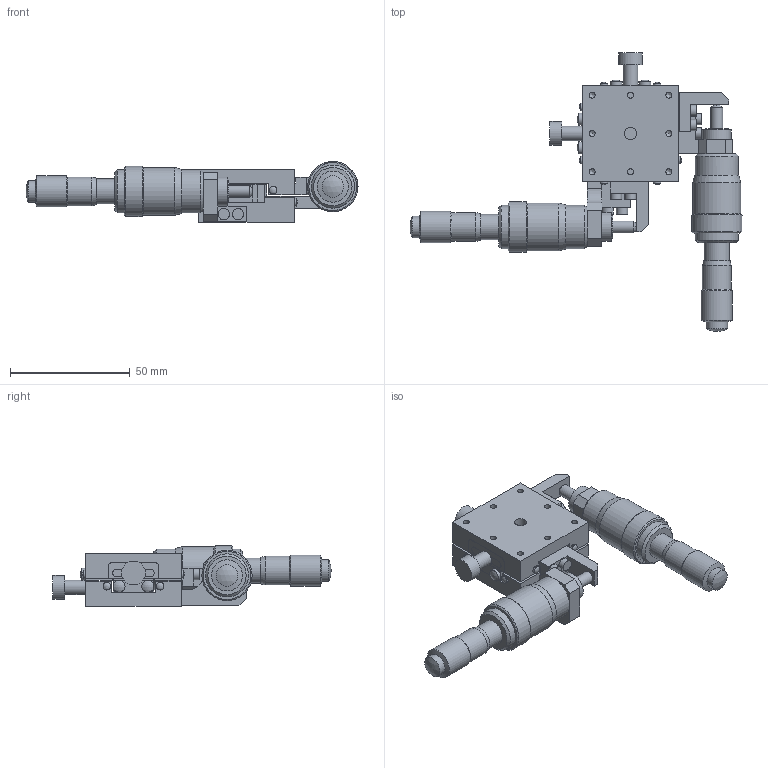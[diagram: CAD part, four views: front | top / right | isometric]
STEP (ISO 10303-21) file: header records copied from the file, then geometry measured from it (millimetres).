
FILE_DESCRIPTION( ( 'STEP AP214' ), '1' );
FILE_NAME( 'C:/Project/3D_B23-40DR-配布-070508.stp', '2007-05-08T10:43:01', ( ' ' ), ( ' ' ), 'XStep 1.0', ' ', ' ' );
FILE_SCHEMA( ( 'automotive_design' ) );
Length unit declared in the file: millimetre
Products named in the file (5): 1; 2; 3; 4; 5
Bounding box: 138.46 x 116.11 x 25.5 mm (x, y, z)
Volume: 70825.6 mm3; surface area: 35797.3 mm2
Topology: 5 solids, 5 shells, 301 faces, 730 edges, 478 vertices
Faces by surface type: plane 166, cylinder 96, cone 23, sphere 16
Full cylindrical faces by diameter (mm): 2.5 x14, 3 x2, 3.2 x8, 3.5 x4, 4.7 x8, 5 x9, 6 x2, 9 x2, 9.5 x2, 10 x2, 10.5 x4, 12 x4, 13 x2, 18 x4, 20 x2, 21 x2
Entity records: 10454 total; most frequent: DIRECTION 1412, CARTESIAN_POINT 1334, ORIENTED_EDGE 1180, EDGE_CURVE 590, AXIS2_PLACEMENT_3D 516, EDGE_LOOP 456, VERTEX_POINT 438, LINE 380
